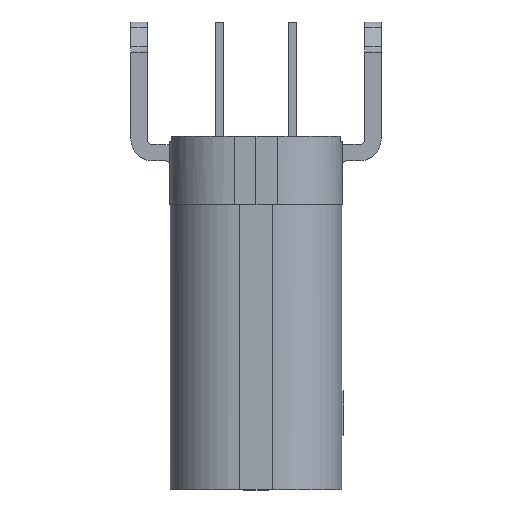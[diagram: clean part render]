
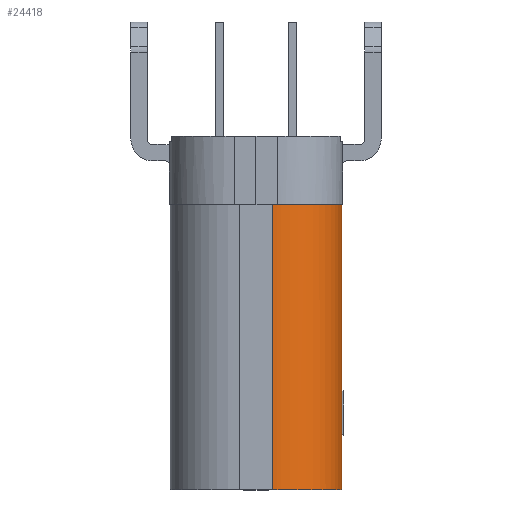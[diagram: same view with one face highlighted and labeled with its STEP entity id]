
A CAD part, left-side view. The second image highlights one B-rep face of the part: STEP entity #24418.
In plain terms, the highlighted cylindrical face has radius 1.28 mm (diameter 2.56 mm), a partial arc.
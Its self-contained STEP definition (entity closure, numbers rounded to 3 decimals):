
#2280 = CARTESIAN_POINT ( 'NONE',  ( 2.692, 0.895, -8.6 ) ) ;
#2351 = ORIENTED_EDGE ( 'NONE', *, *, #55749, .T. ) ;
#3025 = CARTESIAN_POINT ( 'NONE',  ( 2.53, 1.54, -12.1 ) ) ;
#3323 = B_SPLINE_CURVE_WITH_KNOTS ( 'NONE', 3,
 ( #41314, #40073, #45727, #48633 ),
 .UNSPECIFIED., .F., .F.,
 ( 4, 4 ),
 ( 0., 1. ),
 .UNSPECIFIED. ) ;
#4257 = CARTESIAN_POINT ( 'NONE',  ( 2.561, 1.21, -13.85 ) ) ;
#8032 = FACE_OUTER_BOUND ( 'NONE', #29117, .T. ) ;
#8977 = CARTESIAN_POINT ( 'NONE',  ( 2.786, 0.754, -13.85 ) ) ;
#15024 = B_SPLINE_CURVE_WITH_KNOTS ( 'NONE', 3,
 ( #28793, #19345, #38529, #57692, #33525, #8977, #58006, #4257, #38846, #57088 ),
 .UNSPECIFIED., .F., .F.,
 ( 4, 2, 2, 2, 4 ),
 ( 0., 0.25, 0.5, 0.75, 1. ),
 .UNSPECIFIED. ) ;
#17071 = CARTESIAN_POINT ( 'NONE',  ( 2.563, 1.205, -8.6 ) ) ;
#17729 = CARTESIAN_POINT ( 'NONE',  ( 3.81, 0.26, -13.85 ) ) ;
#19345 = CARTESIAN_POINT ( 'NONE',  ( 3.643, 0.259, -13.85 ) ) ;
#19920 = VERTEX_POINT ( 'NONE', #54450 ) ;
#21468 = CARTESIAN_POINT ( 'NONE',  ( 2.53, 1.54, -8.6 ) ) ;
#21573 = B_SPLINE_CURVE_WITH_KNOTS ( 'NONE', 3,
 ( #41280, #26195, #54794, #36252, #45385, #46278, #2280, #17071, #51013, #21468 ),
 .UNSPECIFIED., .F., .F.,
 ( 4, 2, 2, 2, 4 ),
 ( 0., 0.25, 0.5, 0.75, 1. ),
 .UNSPECIFIED. ) ;
#21696 = ORIENTED_EDGE ( 'NONE', *, *, #27691, .F. ) ;
#24418 = ADVANCED_FACE ( 'NONE', ( #8032 ), #35764, .T. ) ;
#26195 = CARTESIAN_POINT ( 'NONE',  ( 3.642, 0.26, -8.6 ) ) ;
#26625 = CARTESIAN_POINT ( 'NONE',  ( 2.53, 1.54, -13.85 ) ) ;
#27691 = EDGE_CURVE ( 'NONE', #41333, #53737, #61159, .T. ) ;
#28793 = CARTESIAN_POINT ( 'NONE',  ( 3.81, 0.26, -13.85 ) ) ;
#29117 = EDGE_LOOP ( 'NONE', ( #2351, #44795, #21696, #38830 ) ) ;
#31380 = CARTESIAN_POINT ( 'NONE',  ( 2.53, 1.54, -10.35 ) ) ;
#33525 = CARTESIAN_POINT ( 'NONE',  ( 3.023, 0.515, -13.85 ) ) ;
#35764 = CYLINDRICAL_SURFACE ( 'NONE', #54754, 1.28 ) ;
#36113 = EDGE_CURVE ( 'NONE', #41860, #41333, #15024, .T. ) ;
#36252 = CARTESIAN_POINT ( 'NONE',  ( 3.165, 0.422, -8.6 ) ) ;
#38529 = CARTESIAN_POINT ( 'NONE',  ( 3.478, 0.292, -13.85 ) ) ;
#38830 = ORIENTED_EDGE ( 'NONE', *, *, #36113, .F. ) ;
#38846 = CARTESIAN_POINT ( 'NONE',  ( 2.529, 1.373, -13.85 ) ) ;
#40073 = CARTESIAN_POINT ( 'NONE',  ( 3.81, 0.26, -12.1 ) ) ;
#40163 = CARTESIAN_POINT ( 'NONE',  ( 2.53, 1.54, -8.6 ) ) ;
#41280 = CARTESIAN_POINT ( 'NONE',  ( 3.81, 0.26, -8.6 ) ) ;
#41314 = CARTESIAN_POINT ( 'NONE',  ( 3.81, 0.26, -13.85 ) ) ;
#41333 = VERTEX_POINT ( 'NONE', #58693 ) ;
#41860 = VERTEX_POINT ( 'NONE', #17729 ) ;
#44795 = ORIENTED_EDGE ( 'NONE', *, *, #49140, .T. ) ;
#45385 = CARTESIAN_POINT ( 'NONE',  ( 3.023, 0.516, -8.6 ) ) ;
#45506 = DIRECTION ( 'NONE',  ( 0.031, -1., 0. ) ) ;
#45727 = CARTESIAN_POINT ( 'NONE',  ( 3.81, 0.26, -10.35 ) ) ;
#46278 = CARTESIAN_POINT ( 'NONE',  ( 2.786, 0.753, -8.6 ) ) ;
#48633 = CARTESIAN_POINT ( 'NONE',  ( 3.81, 0.26, -8.6 ) ) ;
#49140 = EDGE_CURVE ( 'NONE', #19920, #53737, #21573, .T. ) ;
#50202 = DIRECTION ( 'NONE',  ( 0., 0., -1. ) ) ;
#51013 = CARTESIAN_POINT ( 'NONE',  ( 2.53, 1.372, -8.6 ) ) ;
#53737 = VERTEX_POINT ( 'NONE', #55256 ) ;
#54450 = CARTESIAN_POINT ( 'NONE',  ( 3.81, 0.26, -8.6 ) ) ;
#54754 = AXIS2_PLACEMENT_3D ( 'NONE', #54919, #50202, #45506 ) ;
#54794 = CARTESIAN_POINT ( 'NONE',  ( 3.475, 0.293, -8.6 ) ) ;
#54919 = CARTESIAN_POINT ( 'NONE',  ( 3.81, 1.54, -11.225 ) ) ;
#55256 = CARTESIAN_POINT ( 'NONE',  ( 2.53, 1.54, -8.6 ) ) ;
#55749 = EDGE_CURVE ( 'NONE', #41860, #19920, #3323, .T. ) ;
#57088 = CARTESIAN_POINT ( 'NONE',  ( 2.53, 1.54, -13.85 ) ) ;
#57692 = CARTESIAN_POINT ( 'NONE',  ( 3.162, 0.423, -13.85 ) ) ;
#58006 = CARTESIAN_POINT ( 'NONE',  ( 2.695, 0.891, -13.85 ) ) ;
#58693 = CARTESIAN_POINT ( 'NONE',  ( 2.53, 1.54, -13.85 ) ) ;
#61159 = B_SPLINE_CURVE_WITH_KNOTS ( 'NONE', 3,
 ( #26625, #3025, #31380, #40163 ),
 .UNSPECIFIED., .F., .F.,
 ( 4, 4 ),
 ( 0., 1. ),
 .UNSPECIFIED. ) ;
